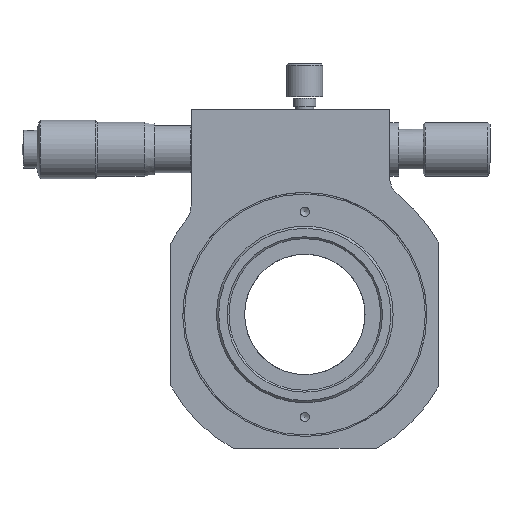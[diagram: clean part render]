
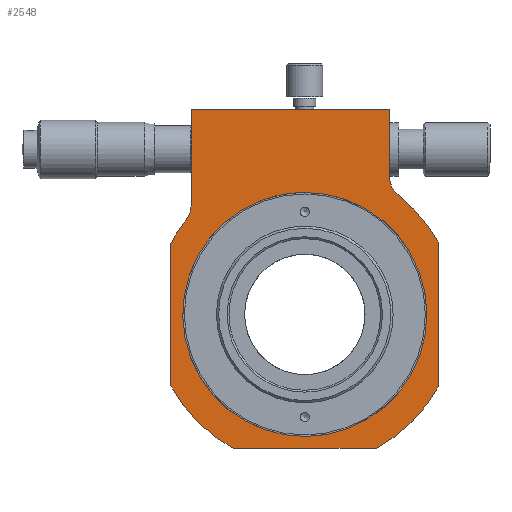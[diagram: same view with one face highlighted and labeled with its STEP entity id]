
A CAD part, left-side view. The second image highlights one B-rep face of the part: STEP entity #2548.
In plain terms, the highlighted planar face has unit normal (-1, 0, 0).
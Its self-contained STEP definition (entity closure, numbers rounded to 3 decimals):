
#50=PLANE('',#2799);
#128=LINE('',#4240,#295);
#131=LINE('',#4248,#298);
#135=LINE('',#4260,#302);
#136=LINE('',#4263,#303);
#140=LINE('',#4275,#307);
#142=LINE('',#4280,#309);
#295=VECTOR('',#3205,32.);
#298=VECTOR('',#3214,32.);
#302=VECTOR('',#3228,15.259);
#303=VECTOR('',#3231,32.);
#307=VECTOR('',#3245,21.695);
#309=VECTOR('',#3251,44.5);
#463=FACE_BOUND('',#759,.T.);
#464=FACE_BOUND('',#760,.T.);
#759=EDGE_LOOP('',(#1993));
#760=EDGE_LOOP('',(#1994,#1995,#1996,#1997,#1998,#1999,#2000,#2001,#2002,
#2003,#2004,#2005));
#974=CIRCLE('',#2744,34.);
#992=CIRCLE('',#2774,27.35);
#999=CIRCLE('',#2784,34.);
#1000=CIRCLE('',#2787,34.);
#1001=CIRCLE('',#2789,5.);
#1002=CIRCLE('',#2793,34.);
#1003=CIRCLE('',#2795,5.);
#1174=VERTEX_POINT('',#4043);
#1175=VERTEX_POINT('',#4045);
#1204=VERTEX_POINT('',#4211);
#1216=VERTEX_POINT('',#4238);
#1217=VERTEX_POINT('',#4242);
#1218=VERTEX_POINT('',#4246);
#1219=VERTEX_POINT('',#4250);
#1220=VERTEX_POINT('',#4254);
#1221=VERTEX_POINT('',#4258);
#1222=VERTEX_POINT('',#4262);
#1223=VERTEX_POINT('',#4266);
#1224=VERTEX_POINT('',#4270);
#1225=VERTEX_POINT('',#4274);
#1480=EDGE_CURVE('',#1174,#1175,#974,.T.);
#1522=EDGE_CURVE('',#1204,#1204,#992,.T.);
#1536=EDGE_CURVE('',#1216,#1174,#128,.T.);
#1538=EDGE_CURVE('',#1217,#1216,#999,.T.);
#1540=EDGE_CURVE('',#1218,#1217,#131,.T.);
#1542=EDGE_CURVE('',#1219,#1218,#1000,.T.);
#1544=EDGE_CURVE('',#1220,#1219,#1001,.T.);
#1546=EDGE_CURVE('',#1221,#1220,#135,.T.);
#1547=EDGE_CURVE('',#1175,#1222,#136,.T.);
#1549=EDGE_CURVE('',#1222,#1223,#1002,.T.);
#1551=EDGE_CURVE('',#1223,#1224,#1003,.T.);
#1553=EDGE_CURVE('',#1224,#1225,#140,.T.);
#1556=EDGE_CURVE('',#1225,#1221,#142,.T.);
#1993=ORIENTED_EDGE('',*,*,#1522,.T.);
#1994=ORIENTED_EDGE('',*,*,#1544,.F.);
#1995=ORIENTED_EDGE('',*,*,#1546,.F.);
#1996=ORIENTED_EDGE('',*,*,#1556,.F.);
#1997=ORIENTED_EDGE('',*,*,#1553,.F.);
#1998=ORIENTED_EDGE('',*,*,#1551,.F.);
#1999=ORIENTED_EDGE('',*,*,#1549,.F.);
#2000=ORIENTED_EDGE('',*,*,#1547,.F.);
#2001=ORIENTED_EDGE('',*,*,#1480,.F.);
#2002=ORIENTED_EDGE('',*,*,#1536,.F.);
#2003=ORIENTED_EDGE('',*,*,#1538,.F.);
#2004=ORIENTED_EDGE('',*,*,#1540,.F.);
#2005=ORIENTED_EDGE('',*,*,#1542,.F.);
#2548=ADVANCED_FACE('',(#463,#464),#50,.F.);
#2744=AXIS2_PLACEMENT_3D('',#4046,#3106,#3107);
#2774=AXIS2_PLACEMENT_3D('',#4212,#3180,#3181);
#2784=AXIS2_PLACEMENT_3D('',#4244,#3209,#3210);
#2787=AXIS2_PLACEMENT_3D('',#4252,#3218,#3219);
#2789=AXIS2_PLACEMENT_3D('',#4256,#3223,#3224);
#2793=AXIS2_PLACEMENT_3D('',#4267,#3235,#3236);
#2795=AXIS2_PLACEMENT_3D('',#4271,#3240,#3241);
#2799=AXIS2_PLACEMENT_3D('',#4281,#3252,#3253);
#3106=DIRECTION('center_axis',(1.,0.,0.));
#3107=DIRECTION('ref_axis',(0.,0.471,-0.882));
#3180=DIRECTION('center_axis',(1.,0.,0.));
#3181=DIRECTION('ref_axis',(0.,0.,-1.));
#3205=DIRECTION('',(0.,1.,0.));
#3209=DIRECTION('center_axis',(1.,0.,0.));
#3210=DIRECTION('ref_axis',(0.,-0.882,-0.471));
#3214=DIRECTION('',(0.,0.,-1.));
#3218=DIRECTION('center_axis',(1.,0.,0.));
#3219=DIRECTION('ref_axis',(0.,-0.615,0.788));
#3223=DIRECTION('center_axis',(-1.,0.,0.));
#3224=DIRECTION('ref_axis',(0.,-0.615,0.788));
#3228=DIRECTION('',(0.,0.,-1.));
#3231=DIRECTION('',(0.,0.,1.));
#3235=DIRECTION('center_axis',(1.,0.,0.));
#3236=DIRECTION('ref_axis',(0.,0.882,0.471));
#3240=DIRECTION('center_axis',(-1.,0.,0.));
#3241=DIRECTION('ref_axis',(0.,1.,0.));
#3245=DIRECTION('',(0.,0.,1.));
#3251=DIRECTION('',(0.,-1.,0.));
#3252=DIRECTION('center_axis',(1.,0.,0.));
#3253=DIRECTION('ref_axis',(0.,0.,-1.));
#4043=CARTESIAN_POINT('',(-14.,16.,-30.));
#4045=CARTESIAN_POINT('',(-14.,30.,-16.));
#4046=CARTESIAN_POINT('Origin',(-14.,0.,0.));
#4211=CARTESIAN_POINT('',(-14.,0.,27.35));
#4212=CARTESIAN_POINT('Origin',(-14.,0.,0.));
#4238=CARTESIAN_POINT('',(-14.,-16.,-30.));
#4240=CARTESIAN_POINT('',(-14.,-16.,-30.));
#4242=CARTESIAN_POINT('',(-14.,-30.,-16.));
#4244=CARTESIAN_POINT('Origin',(-14.,0.,0.));
#4246=CARTESIAN_POINT('',(-14.,-30.,16.));
#4248=CARTESIAN_POINT('',(-14.,-30.,16.));
#4250=CARTESIAN_POINT('',(-14.,-20.923,26.8));
#4252=CARTESIAN_POINT('Origin',(-14.,0.,0.));
#4254=CARTESIAN_POINT('',(-14.,-19.,30.741));
#4256=CARTESIAN_POINT('Origin',(-14.,-24.,30.741));
#4258=CARTESIAN_POINT('',(-14.,-19.,46.));
#4260=CARTESIAN_POINT('',(-14.,-19.,46.));
#4262=CARTESIAN_POINT('',(-14.,30.,16.));
#4263=CARTESIAN_POINT('',(-14.,30.,-16.));
#4266=CARTESIAN_POINT('',(-14.,26.59,21.189));
#4267=CARTESIAN_POINT('Origin',(-14.,0.,0.));
#4270=CARTESIAN_POINT('',(-14.,25.5,24.305));
#4271=CARTESIAN_POINT('Origin',(-14.,30.5,24.305));
#4274=CARTESIAN_POINT('',(-14.,25.5,46.));
#4275=CARTESIAN_POINT('',(-14.,25.5,24.305));
#4280=CARTESIAN_POINT('',(-14.,25.5,46.));
#4281=CARTESIAN_POINT('Origin',(-14.,0.876,8.604));
